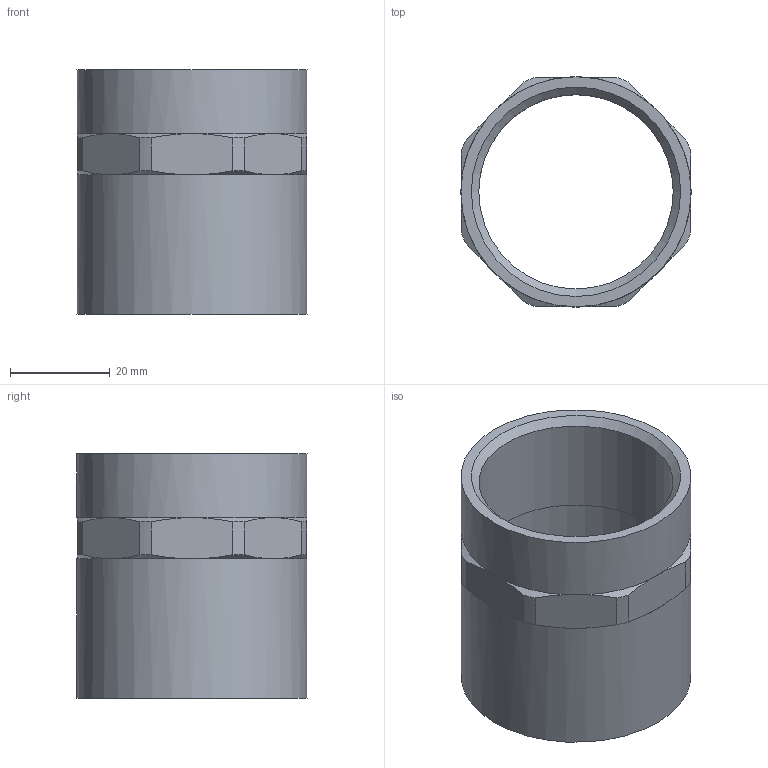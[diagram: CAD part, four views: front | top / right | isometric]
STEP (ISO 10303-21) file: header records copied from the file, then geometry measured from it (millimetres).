
FILE_DESCRIPTION(/* description */ (''),/* implementation_level */ '2;1');
FILE_NAME(/* name */ 'C:\Users\gomulka\Desktop\Nowy folder (2)\14270_42-114(2).stp',/* time_stamp */ '2017-10-19T09:21:51+02:00',/* author */ ('gomulka'),/* organization */ (''),/* preprocessor_version */ 'ST-DEVELOPER v15.6',/* originating_system */ 'Autodesk Inventor 2015',/* authorisation */ '');
FILE_SCHEMA (('AUTOMOTIVE_DESIGN { 1 0 10303 214 3 1 1 }'));
Length unit declared in the file: millimetre
Products named in the file (1): 14270_42-114(2)
Bounding box: 46.1 x 46.1 x 49 mm (x, y, z)
Volume: 18116 mm3; surface area: 14269.1 mm2
Topology: 1 solids, 1 shells, 56 faces, 159 edges, 105 vertices
Faces by surface type: plane 26, cone 18, cylinder 12
Full cylindrical faces by diameter (mm): 38.952 x1, 42.17 x1, 46.1 x2
Entity records: 1782 total; most frequent: CARTESIAN_POINT 375, ORIENTED_EDGE 302, DIRECTION 288, EDGE_CURVE 151, AXIS2_PLACEMENT_3D 112, VERTEX_POINT 103, EDGE_LOOP 64, LINE 64
